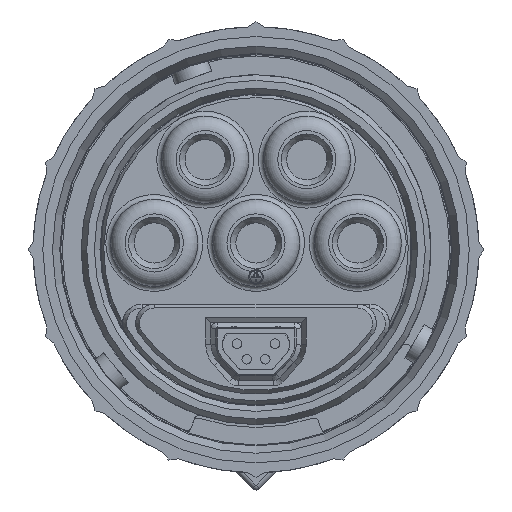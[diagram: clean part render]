
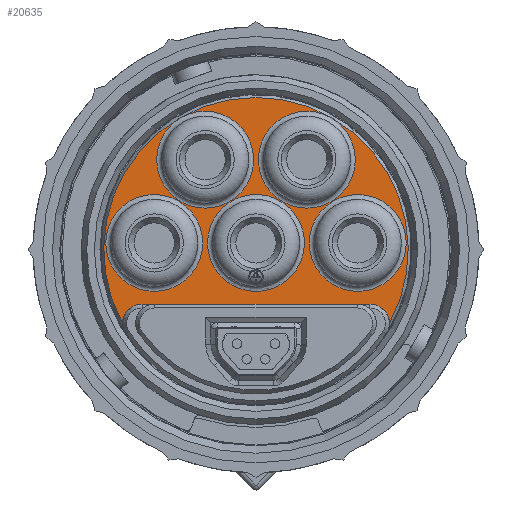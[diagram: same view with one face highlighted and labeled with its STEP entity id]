
A CAD part, front view. The second image highlights one B-rep face of the part: STEP entity #20635.
In plain terms, the highlighted planar face has unit normal (0, -1, 0).
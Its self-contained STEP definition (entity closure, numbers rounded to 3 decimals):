
#565=FACE_BOUND('',#7000,.T.);
#566=FACE_BOUND('',#7001,.T.);
#567=FACE_BOUND('',#7002,.T.);
#568=FACE_BOUND('',#7003,.T.);
#569=FACE_BOUND('',#7004,.T.);
#2551=LINE('',#36135,#4728);
#4728=VECTOR('',#26385,10.);
#5883=FACE_OUTER_BOUND('',#6999,.T.);
#6999=EDGE_LOOP('',(#17218,#17219,#17220,#17221));
#7000=EDGE_LOOP('',(#17222,#17223));
#7001=EDGE_LOOP('',(#17224));
#7002=EDGE_LOOP('',(#17225));
#7003=EDGE_LOOP('',(#17226));
#7004=EDGE_LOOP('',(#17227));
#7434=CIRCLE('',#21912,15.711);
#7436=CIRCLE('',#21916,5.);
#7439=CIRCLE('',#21919,5.);
#7440=CIRCLE('',#21921,2.);
#7441=CIRCLE('',#21922,2.);
#7442=CIRCLE('',#21923,5.);
#7443=CIRCLE('',#21924,5.);
#7444=CIRCLE('',#21925,5.);
#7445=CIRCLE('',#21926,5.);
#9220=VERTEX_POINT('',#36092);
#9224=VERTEX_POINT('',#36106);
#9227=VERTEX_POINT('',#36124);
#9228=VERTEX_POINT('',#36125);
#9230=VERTEX_POINT('',#36132);
#9231=VERTEX_POINT('',#36134);
#9232=VERTEX_POINT('',#36137);
#9233=VERTEX_POINT('',#36139);
#9234=VERTEX_POINT('',#36141);
#9235=VERTEX_POINT('',#36143);
#11916=EDGE_CURVE('',#9224,#9220,#7434,.T.);
#11921=EDGE_CURVE('',#9227,#9228,#7436,.T.);
#11924=EDGE_CURVE('',#9228,#9227,#7439,.T.);
#11925=EDGE_CURVE('',#9230,#9224,#7440,.F.);
#11926=EDGE_CURVE('',#9230,#9231,#2551,.T.);
#11927=EDGE_CURVE('',#9220,#9231,#7441,.F.);
#11928=EDGE_CURVE('',#9232,#9232,#7442,.T.);
#11929=EDGE_CURVE('',#9233,#9233,#7443,.T.);
#11930=EDGE_CURVE('',#9234,#9234,#7444,.T.);
#11931=EDGE_CURVE('',#9235,#9235,#7445,.T.);
#17218=ORIENTED_EDGE('',*,*,#11925,.F.);
#17219=ORIENTED_EDGE('',*,*,#11926,.T.);
#17220=ORIENTED_EDGE('',*,*,#11927,.F.);
#17221=ORIENTED_EDGE('',*,*,#11916,.F.);
#17222=ORIENTED_EDGE('',*,*,#11921,.F.);
#17223=ORIENTED_EDGE('',*,*,#11924,.F.);
#17224=ORIENTED_EDGE('',*,*,#11928,.F.);
#17225=ORIENTED_EDGE('',*,*,#11929,.F.);
#17226=ORIENTED_EDGE('',*,*,#11930,.F.);
#17227=ORIENTED_EDGE('',*,*,#11931,.F.);
#18600=PLANE('',#21920);
#20635=ADVANCED_FACE('',(#5883,#565,#566,#567,#568,#569),#18600,.T.);
#21912=AXIS2_PLACEMENT_3D('',#36115,#26362,#26363);
#21916=AXIS2_PLACEMENT_3D('',#36126,#26373,#26374);
#21919=AXIS2_PLACEMENT_3D('',#36130,#26379,#26380);
#21920=AXIS2_PLACEMENT_3D('',#36131,#26381,#26382);
#21921=AXIS2_PLACEMENT_3D('',#36133,#26383,#26384);
#21922=AXIS2_PLACEMENT_3D('',#36136,#26386,#26387);
#21923=AXIS2_PLACEMENT_3D('',#36138,#26388,#26389);
#21924=AXIS2_PLACEMENT_3D('',#36140,#26390,#26391);
#21925=AXIS2_PLACEMENT_3D('',#36142,#26392,#26393);
#21926=AXIS2_PLACEMENT_3D('',#36144,#26394,#26395);
#26362=DIRECTION('center_axis',(0.,1.,0.));
#26363=DIRECTION('ref_axis',(1.,0.,0.));
#26373=DIRECTION('center_axis',(0.,-1.,0.));
#26374=DIRECTION('ref_axis',(1.,0.,0.));
#26379=DIRECTION('center_axis',(0.,-1.,0.));
#26380=DIRECTION('ref_axis',(1.,0.,0.));
#26381=DIRECTION('center_axis',(0.,-1.,0.));
#26382=DIRECTION('ref_axis',(-1.,0.,0.));
#26383=DIRECTION('center_axis',(0.,1.,0.));
#26384=DIRECTION('ref_axis',(-0.878,0.,0.478));
#26385=DIRECTION('',(1.,0.,0.));
#26386=DIRECTION('center_axis',(0.,1.,0.));
#26387=DIRECTION('ref_axis',(0.878,0.,0.478));
#26388=DIRECTION('center_axis',(0.,-1.,0.));
#26389=DIRECTION('ref_axis',(1.,0.,0.));
#26390=DIRECTION('center_axis',(0.,-1.,0.));
#26391=DIRECTION('ref_axis',(1.,0.,0.));
#26392=DIRECTION('center_axis',(0.,-1.,0.));
#26393=DIRECTION('ref_axis',(1.,0.,0.));
#26394=DIRECTION('center_axis',(0.,-1.,0.));
#26395=DIRECTION('ref_axis',(1.,0.,0.));
#36092=CARTESIAN_POINT('',(13.758,-11.3,-7.588));
#36106=CARTESIAN_POINT('',(-13.758,-11.3,-7.588));
#36115=CARTESIAN_POINT('Origin',(0.,-11.3,
0.));
#36124=CARTESIAN_POINT('',(-1.32,-11.3,5.523));
#36125=CARTESIAN_POINT('',(-5.,-11.3,0.7));
#36126=CARTESIAN_POINT('Origin',(0.,-11.3,
0.7));
#36130=CARTESIAN_POINT('Origin',(0.,-11.3,
0.7));
#36131=CARTESIAN_POINT('Origin',(0.,-11.3,
0.));
#36132=CARTESIAN_POINT('',(-11.758,-11.3,-5.6));
#36133=CARTESIAN_POINT('Origin',(-11.758,-11.3,-7.6));
#36134=CARTESIAN_POINT('',(11.758,-11.3,-5.6));
#36135=CARTESIAN_POINT('',(6.904,-11.3,-5.6));
#36136=CARTESIAN_POINT('Origin',(11.758,-11.3,-7.6));
#36137=CARTESIAN_POINT('',(-15.5,-11.3,0.7));
#36138=CARTESIAN_POINT('Origin',(-10.5,-11.3,0.7));
#36139=CARTESIAN_POINT('',(0.25,-11.3,9.293));
#36140=CARTESIAN_POINT('Origin',(5.25,-11.3,9.293));
#36141=CARTESIAN_POINT('',(5.5,-11.3,0.7));
#36142=CARTESIAN_POINT('Origin',(10.5,-11.3,0.7));
#36143=CARTESIAN_POINT('',(-10.25,-11.3,9.293));
#36144=CARTESIAN_POINT('Origin',(-5.25,-11.3,9.293));
